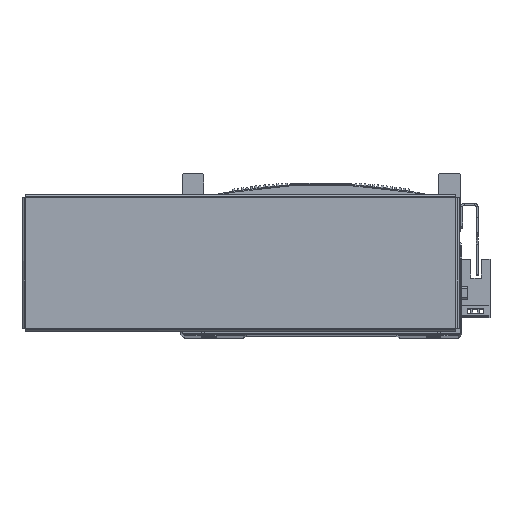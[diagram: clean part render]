
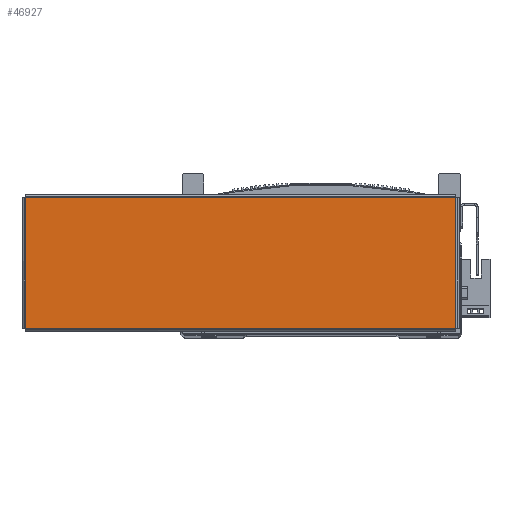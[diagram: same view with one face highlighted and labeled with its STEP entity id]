
A CAD part, top view. The second image highlights one B-rep face of the part: STEP entity #46927.
In plain terms, the highlighted planar face has unit normal (0, 0, 1) as drawn and (0, -1, 0) by its records, which use the part's own axes.
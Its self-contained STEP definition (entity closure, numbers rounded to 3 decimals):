
#593 = EDGE_LOOP ( 'NONE', ( #63074, #63001, #63055, #63057 ) ) ;
#3709 = DIRECTION ( 'NONE',  ( 0., 0., 1. ) ) ;
#3723 = CARTESIAN_POINT ( 'NONE',  ( 0., -1., 0. ) ) ;
#3733 = PLANE ( 'NONE',  #69932 ) ;
#3747 = DIRECTION ( 'NONE',  ( 0., 1., 0. ) ) ;
#6578 = CARTESIAN_POINT ( 'NONE',  ( 103.543, -1., 31.363 ) ) ;
#6590 = DIRECTION ( 'NONE',  ( -1., 0., 0. ) ) ;
#6671 = CARTESIAN_POINT ( 'NONE',  ( -103.513, -1., 31.393 ) ) ;
#6684 = DIRECTION ( 'NONE',  ( 0., 0., -1. ) ) ;
#6708 = DIRECTION ( 'NONE',  ( 1., 0., 0. ) ) ;
#6714 = CARTESIAN_POINT ( 'NONE',  ( -103.543, -1., -31.363 ) ) ;
#6819 = VECTOR ( 'NONE', #6590, 1000. ) ;
#6915 = LINE ( 'NONE', #6578, #6819 ) ;
#6927 = LINE ( 'NONE', #6671, #6979 ) ;
#6979 = VECTOR ( 'NONE', #6684, 1000. ) ;
#7029 = LINE ( 'NONE', #6714, #7033 ) ;
#7033 = VECTOR ( 'NONE', #6708, 1000. ) ;
#7101 = VECTOR ( 'NONE', #63173, 1000. ) ;
#7123 = LINE ( 'NONE', #63167, #7101 ) ;
#46927 = ADVANCED_FACE ( 'NONE', ( #67608 ), #3733, .F. ) ;
#59097 = EDGE_CURVE ( 'NONE', #61440, #61362, #6915, .T. ) ;
#59122 = EDGE_CURVE ( 'NONE', #61362, #61334, #6927, .T. ) ;
#59139 = EDGE_CURVE ( 'NONE', #61334, #61524, #7029, .T. ) ;
#59148 = EDGE_CURVE ( 'NONE', #61524, #61440, #7123, .T. ) ;
#61334 = VERTEX_POINT ( 'NONE', #63285 ) ;
#61362 = VERTEX_POINT ( 'NONE', #63272 ) ;
#61440 = VERTEX_POINT ( 'NONE', #63247 ) ;
#61524 = VERTEX_POINT ( 'NONE', #63310 ) ;
#63001 = ORIENTED_EDGE ( 'NONE', *, *, #59122, .T. ) ;
#63055 = ORIENTED_EDGE ( 'NONE', *, *, #59139, .T. ) ;
#63057 = ORIENTED_EDGE ( 'NONE', *, *, #59148, .T. ) ;
#63074 = ORIENTED_EDGE ( 'NONE', *, *, #59097, .T. ) ;
#63167 = CARTESIAN_POINT ( 'NONE',  ( 103.513, -1., -31.393 ) ) ;
#63173 = DIRECTION ( 'NONE',  ( 0., 0., 1. ) ) ;
#63247 = CARTESIAN_POINT ( 'NONE',  ( 103.513, -1., 31.363 ) ) ;
#63272 = CARTESIAN_POINT ( 'NONE',  ( -103.513, -1., 31.363 ) ) ;
#63285 = CARTESIAN_POINT ( 'NONE',  ( -103.513, -1., -31.363 ) ) ;
#63310 = CARTESIAN_POINT ( 'NONE',  ( 103.513, -1., -31.363 ) ) ;
#67608 = FACE_OUTER_BOUND ( 'NONE', #593, .T. ) ;
#69932 = AXIS2_PLACEMENT_3D ( 'NONE', #3723, #3747, #3709 ) ;
